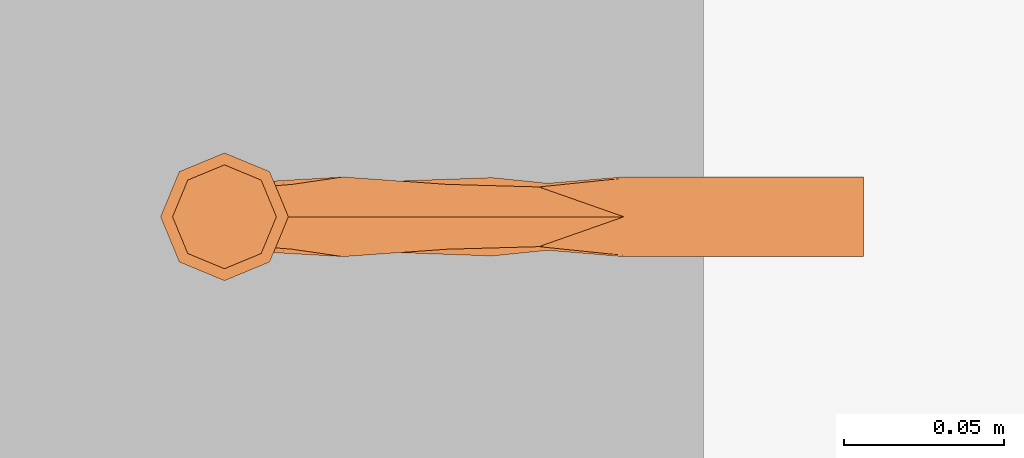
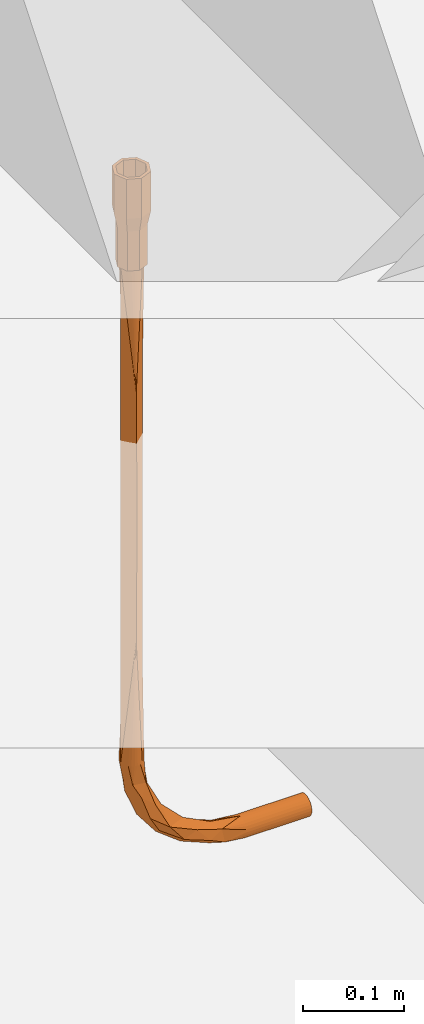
# One storey, part 26 of 26: 1 proxy.
"""IFC2X3 building model written with IfcOpenShell, lengths in millimetres."""

from ifc_helpers import new_model, entity, si_unit, converted_unit, derived_unit, direction, frame, origin, place, context, subcontext, project, spatial, faceted_brep, source, transform, mapped, type_object, type_shapes, element, save


model = new_model("IFC2X3")

# Units and contexts
model_context = context("Model", 3, precision=0.01, world=origin(), true_north=direction((6.12303176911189e-17, 1.0)))
body_context = subcontext(model_context, "Body", "Model", "MODEL_VIEW")
ifc_project = project(units=[si_unit("LENGTHUNIT", "METRE", prefix="MILLI"), si_unit("AREAUNIT", "SQUARE_METRE"), si_unit("VOLUMEUNIT", "CUBIC_METRE"), converted_unit("PLANEANGLEUNIT", "DEGREE", entity("IfcRatioMeasure", 0.0174532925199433), si_unit("PLANEANGLEUNIT", "RADIAN"), dimensions=[0, 0, 0, 0, 0, 0, 0]), si_unit("MASSUNIT", "GRAM", prefix="KILO"), derived_unit("MASSDENSITYUNIT", [(si_unit("MASSUNIT", "GRAM", prefix="KILO"), 1), (si_unit("LENGTHUNIT", "METRE"), -3)]), si_unit("TIMEUNIT", "SECOND"), si_unit("FREQUENCYUNIT", "HERTZ"), si_unit("THERMODYNAMICTEMPERATUREUNIT", "DEGREE_CELSIUS"), derived_unit("THERMALTRANSMITTANCEUNIT", [(si_unit("MASSUNIT", "GRAM", prefix="KILO"), 1), (si_unit("THERMODYNAMICTEMPERATUREUNIT", "KELVIN"), -1), (si_unit("TIMEUNIT", "SECOND"), -3)]), derived_unit("VOLUMETRICFLOWRATEUNIT", [(si_unit("LENGTHUNIT", "METRE"), 3), (si_unit("TIMEUNIT", "SECOND"), -1)]), si_unit("ELECTRICCURRENTUNIT", "AMPERE"), si_unit("ELECTRICVOLTAGEUNIT", "VOLT"), si_unit("POWERUNIT", "WATT"), si_unit("FORCEUNIT", "NEWTON", prefix="KILO"), si_unit("ILLUMINANCEUNIT", "LUX"), si_unit("LUMINOUSFLUXUNIT", "LUMEN"), si_unit("LUMINOUSINTENSITYUNIT", "CANDELA"), derived_unit("USERDEFINED", [(si_unit("MASSUNIT", "GRAM", prefix="KILO"), -1), (si_unit("LENGTHUNIT", "METRE"), -2), (si_unit("TIMEUNIT", "SECOND"), 3), (si_unit("LUMINOUSFLUXUNIT", "LUMEN"), 1)]), derived_unit("LINEARVELOCITYUNIT", [(si_unit("LENGTHUNIT", "METRE"), 1), (si_unit("TIMEUNIT", "SECOND"), -1)]), si_unit("PRESSUREUNIT", "PASCAL"), derived_unit("USERDEFINED", [(si_unit("LENGTHUNIT", "METRE"), -2), (si_unit("MASSUNIT", "GRAM", prefix="KILO"), 1), (si_unit("TIMEUNIT", "SECOND"), -2)])], contexts=[model_context])

# Site, building, storey
site_placement = place(None, origin())
site = spatial("IfcSite", under=ifc_project, at=site_placement, Name="Default", CompositionType="ELEMENT")
building_placement = place(site_placement, origin())
building = spatial("IfcBuilding", under=site, at=building_placement, Name="niet gebruiken", CompositionType="ELEMENT")
storey_placement = place(building_placement, origin())
storey = spatial("IfcBuildingStorey", under=building, at=storey_placement, Name="00 begane grond", CompositionType="ELEMENT", Elevation=0.0)

# Proxy
building_element_proxy_type = type_object("IfcBuildingElementProxyType", Name="Ø25/M30x1055 (gebogen)", PredefinedType="NOTDEFINED")
shared_shape = source(origin(), body_context, "Body", "Brep", [
    faceted_brep([(27.8452722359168, 32.4205897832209, 742.595272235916), (24.8305102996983, 33.6693450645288, 742.595272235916), (21.5952722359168, 34.0952722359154, 742.595272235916), (18.3600341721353, 33.6693450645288, 742.595272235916), (15.3452722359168, 32.4205897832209, 742.595272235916), (12.756437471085, 30.4341070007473, 742.595272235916), (10.7699546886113, 27.8452722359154, 742.595272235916), (9.52119940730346, 24.8305102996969, 742.595272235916), (9.0952722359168, 21.5952722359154, 742.595272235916), (9.52119940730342, 18.360034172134, 742.595272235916), (10.7699546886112, 15.3452722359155, 742.595272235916), (12.7564374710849, 12.7564374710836, 742.595272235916), (15.3452722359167, 10.76995468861, 742.595272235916), (18.3600341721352, 9.52119940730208, 742.595272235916), (21.5952722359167, 9.0952722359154, 742.595272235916), (24.8305102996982, 9.52119940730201, 742.595272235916), (27.8452722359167, 10.7699546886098, 742.595272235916), (30.4341070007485, 12.7564374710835, 742.595272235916), (32.4205897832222, 15.3452722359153, 742.595272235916), (33.6693450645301, 18.3600341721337, 742.595272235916), (34.0952722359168, 21.5952722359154, 742.595272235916), (33.6693450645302, 24.8305102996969, 742.595272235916), (32.4205897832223, 27.8452722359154, 742.595272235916), (30.4341070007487, 30.4341070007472, 742.595272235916), (221.595272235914, 27.8452722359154, 24.9205897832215), (221.595272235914, 24.8305102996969, 26.1693450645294), (221.595272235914, 21.5952722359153, 26.595272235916), (221.595272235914, 18.3600341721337, 26.1693450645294), (221.595272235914, 15.3452722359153, 24.9205897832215), (221.595272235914, 12.7564374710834, 22.9341070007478), (221.595272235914, 10.7699546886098, 20.345272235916), (221.595272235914, 9.52119940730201, 17.3305102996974), (221.595272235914, 9.0952722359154, 14.0952722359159), (221.595272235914, 9.52119940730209, 10.8600341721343), (221.595272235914, 10.76995468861, 7.84527223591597), (221.595272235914, 12.7564374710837, 5.25643747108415), (221.595272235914, 15.3452722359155, 3.26995468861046), (221.595272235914, 18.360034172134, 2.0211994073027), (221.595272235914, 21.5952722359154, 1.59527223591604), (221.595272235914, 24.8305102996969, 2.0211994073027), (221.595272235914, 27.8452722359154, 3.26995468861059), (221.595272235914, 30.4341070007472, 5.25643747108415), (221.595272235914, 32.4205897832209, 7.8452722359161), (221.595272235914, 33.6693450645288, 10.8600341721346), (221.595272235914, 34.0952722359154, 14.095272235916), (221.595272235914, 33.6693450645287, 17.3305102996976), (221.595272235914, 32.4205897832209, 20.3452722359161), (221.595272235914, 30.4341070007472, 22.9341070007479), (18.3600341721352, 9.52119940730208, 139.095272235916), (19.9636949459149, 9.20221145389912, 289.810582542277), (15.3452722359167, 10.76995468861, 139.095272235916), (33.6693450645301, 18.3600341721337, 139.095272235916), (34.0952722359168, 21.5952722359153, 139.095272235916), (34.0952722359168, 21.5952722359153, 262.545667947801), (34.0952722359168, 21.5952722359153, 619.144876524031), (9.52119940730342, 18.360034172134, 139.095272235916), (10.7699546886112, 15.3452722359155, 139.095272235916), (12.7564374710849, 12.7564374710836, 139.095272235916), (19.9636951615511, 9.20221142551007, 591.879953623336), (24.8305102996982, 9.52119940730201, 139.095272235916), (27.8452722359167, 10.7699546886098, 139.095272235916), (9.0952722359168, 21.5952722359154, 385.996059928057), (9.0952722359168, 21.5952722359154, 139.095272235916), (34.0952722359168, 21.5952722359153, 440.845272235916), (20.8391525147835, 9.11816187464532, 440.845266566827), (9.0952722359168, 21.5952722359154, 495.694484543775), (30.4341070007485, 12.7564374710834, 139.095272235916), (21.5952722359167, 9.0952722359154, 139.095272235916), (32.4205897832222, 15.3452722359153, 139.095272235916), (19.9636941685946, 33.9883329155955, 591.879951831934), (19.9636947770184, 33.988332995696, 289.810583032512), (18.3600341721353, 33.6693450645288, 139.095272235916), (15.3452722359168, 32.4205897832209, 139.095272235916), (24.8305102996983, 33.6693450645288, 139.095272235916), (27.8452722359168, 32.4205897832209, 139.095272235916), (30.4341070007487, 30.4341070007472, 139.095272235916), (32.4205897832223, 27.8452722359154, 139.095272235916), (33.6693450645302, 24.8305102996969, 139.095272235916), (21.5952722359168, 34.0952722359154, 139.095272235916), (20.8391522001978, 34.0723825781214, 440.845267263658), (10.7699546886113, 27.8452722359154, 139.095272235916), (9.52119940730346, 24.8305102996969, 139.095272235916), (12.756437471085, 30.4341070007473, 139.095272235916), (12.3491161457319, 21.5952722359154, 114.379873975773), (13.7804711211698, 21.5952722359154, 103.50765353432), (16.9722916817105, 11.0984902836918, 115.309187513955), (48.2477624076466, 12.4764047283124, 48.744443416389), (58.775862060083, 9.12119430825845, 51.2758622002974), (36.8554902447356, 10.3819759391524, 68.429625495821), (120.003528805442, 12.2510947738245, 25.4681731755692), (146.595272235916, 9.521199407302, 17.3305102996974), (146.595272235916, 10.7699546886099, 20.345272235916), (122.809187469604, 11.0984902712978, 9.472291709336), (105.283476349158, 9.32327970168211, 18.6040599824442), (26.104059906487, 9.3232797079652, 97.7834764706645), (32.9681731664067, 12.2510947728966, 112.503528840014), (27.5167792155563, 21.5952722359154, 70.3452722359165), (111.00765353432, 21.5952722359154, 6.28047112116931), (42.7911219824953, 11.4417887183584, 83.5962823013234), (75.9296253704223, 10.3819758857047, 29.3554904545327), (91.0962822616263, 11.4417887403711, 35.291122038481), (49.3680898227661, 21.5952722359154, 41.8680898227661), (39.601414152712, 21.5952722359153, 104.330860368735), (55.580860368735, 21.5952722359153, 72.9694313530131), (146.595272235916, 10.76995468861, 7.84527223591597), (146.595272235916, 9.52119940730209, 10.8600341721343), (146.595272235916, 9.0952722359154, 14.0952722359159), (146.595272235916, 15.3452722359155, 3.26995468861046), (121.879873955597, 21.5952722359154, 4.84911614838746), (146.595272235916, 18.360034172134, 2.02119940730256), (146.595272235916, 21.5952722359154, 1.59527223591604), (146.595272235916, 12.7564374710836, 5.25643747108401), (111.830860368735, 21.5952722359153, 32.1014141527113), (80.4694313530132, 21.5952722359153, 48.0808603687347), (146.595272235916, 18.3600341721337, 26.1693450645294), (146.595272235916, 21.5952722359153, 26.595272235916), (77.8452722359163, 21.5952722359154, 20.016779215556), (146.595272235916, 15.3452722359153, 24.9205897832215), (146.595272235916, 12.7564374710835, 22.9341070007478), (32.9681731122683, 30.9394497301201, 112.503528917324), (42.7911216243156, 31.7487560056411, 83.5962822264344), (120.003528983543, 30.9394497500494, 25.4681730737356), (16.9722915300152, 32.0920541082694, 115.309187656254), (26.1040594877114, 33.8672647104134, 97.7834768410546), (105.28347683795, 33.8672646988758, 18.6040594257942), (122.809187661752, 32.0920540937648, 9.4722915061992), (146.595272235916, 30.4341070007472, 22.9341070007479), (146.595272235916, 27.8452722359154, 24.9205897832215), (48.2477623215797, 30.7141395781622, 48.7444432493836), (36.8554894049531, 32.8085680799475, 68.4296251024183), (58.7758612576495, 34.0693501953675, 51.2758623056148), (75.9296245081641, 32.8085679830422, 29.3554895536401), (146.595272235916, 24.8305102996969, 26.1693450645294), (91.0962826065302, 31.7487560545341, 35.2911213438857), (146.595272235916, 24.830510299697, 2.0211994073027), (146.595272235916, 32.4205897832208, 20.3452722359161), (146.595272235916, 33.6693450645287, 17.3305102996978), (146.595272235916, 34.0952722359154, 14.0952722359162), (146.595272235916, 32.420589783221, 7.8452722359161), (146.595272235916, 30.4341070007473, 5.25643747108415), (146.595272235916, 33.6693450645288, 10.8600341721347), (146.595272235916, 27.8452722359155, 3.26995468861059)], [[[0, 1, 2, 3, 4, 5, 6, 7, 8, 9, 10, 11, 12, 13, 14, 15, 16, 17, 18, 19, 20, 21, 22, 23]], [[24, 25, 26, 27, 28, 29, 30, 31, 32, 33, 34, 35, 36, 37, 38, 39, 40, 41, 42, 43, 44, 45, 46, 47]], [[48, 49, 50]], [[51, 52, 53]], [[20, 19, 54]], [[55, 56, 49]], [[49, 57, 50]], [[18, 54, 19]], [[16, 58, 54]], [[59, 60, 49]], [[49, 61, 62]], [[14, 58, 15]], [[53, 63, 49]], [[61, 49, 64]], [[49, 62, 55]], [[65, 64, 58]], [[58, 64, 63]], [[9, 8, 58]], [[10, 9, 58]], [[53, 49, 60]], [[58, 11, 10]], [[60, 66, 53]], [[58, 63, 54]], [[49, 67, 59]], [[64, 49, 63]], [[68, 51, 53]], [[58, 13, 12]], [[17, 54, 18]], [[56, 57, 49]], [[49, 48, 67]], [[68, 53, 66]], [[12, 11, 58]], [[8, 65, 58]], [[61, 64, 65]], [[58, 14, 13]], [[15, 58, 16]], [[54, 17, 16]], [[69, 5, 4]], [[70, 71, 72]], [[73, 70, 74]], [[75, 53, 76]], [[52, 77, 53]], [[21, 20, 54]], [[5, 69, 6]], [[78, 71, 70]], [[74, 70, 53]], [[70, 73, 78]], [[53, 75, 74]], [[65, 69, 79]], [[62, 61, 70]], [[21, 54, 22]], [[8, 7, 69]], [[76, 53, 77]], [[22, 54, 23]], [[79, 69, 63]], [[2, 69, 3]], [[70, 63, 53]], [[79, 70, 61]], [[70, 80, 81]], [[70, 82, 80]], [[4, 3, 69]], [[69, 7, 6]], [[69, 2, 1]], [[81, 62, 70]], [[61, 65, 79]], [[23, 54, 0]], [[70, 79, 63]], [[72, 82, 70]], [[54, 69, 0]], [[69, 1, 0]], [[69, 65, 8]], [[63, 69, 54]], [[55, 62, 83]], [[83, 84, 85]], [[86, 87, 88]], [[56, 83, 57]], [[83, 56, 55]], [[89, 90, 91]], [[48, 50, 85]], [[92, 89, 93]], [[85, 50, 57]], [[85, 94, 95]], [[96, 94, 84]], [[57, 83, 85]], [[93, 97, 92]], [[88, 98, 94]], [[67, 48, 85]], [[94, 96, 88]], [[95, 60, 59]], [[59, 85, 95]], [[99, 100, 87]], [[96, 86, 88]], [[68, 95, 51]], [[99, 86, 101]], [[52, 51, 95]], [[60, 95, 66]], [[99, 87, 86]], [[85, 59, 67]], [[66, 95, 68]], [[95, 98, 102]], [[98, 103, 102]], [[88, 87, 98]], [[93, 100, 99]], [[104, 105, 92]], [[105, 106, 92]], [[92, 106, 90]], [[107, 108, 109]], [[110, 109, 108]], [[95, 102, 52]], [[108, 111, 92]], [[92, 111, 104]], [[100, 112, 113]], [[84, 94, 85]], [[111, 108, 107]], [[108, 92, 97]], [[114, 115, 89]], [[100, 93, 89]], [[98, 95, 94]], [[112, 89, 115]], [[86, 96, 101]], [[101, 116, 99]], [[93, 116, 97]], [[117, 114, 89]], [[118, 117, 89]], [[87, 103, 98]], [[113, 87, 100]], [[116, 93, 99]], [[89, 91, 118]], [[92, 90, 89]], [[100, 89, 112]], [[87, 113, 103]], [[77, 119, 76]], [[120, 102, 103]], [[119, 74, 75]], [[121, 112, 115]], [[75, 76, 119]], [[83, 122, 84]], [[102, 119, 52]], [[77, 52, 119]], [[84, 123, 96]], [[122, 119, 123]], [[80, 83, 81]], [[97, 124, 125]], [[119, 120, 123]], [[80, 82, 83]], [[126, 121, 127]], [[83, 62, 81]], [[122, 82, 72]], [[122, 78, 73]], [[128, 129, 130]], [[71, 78, 122]], [[122, 73, 119]], [[101, 131, 116]], [[82, 122, 83]], [[122, 72, 71]], [[124, 116, 131]], [[96, 129, 128]], [[123, 120, 129]], [[115, 132, 121]], [[96, 128, 101]], [[121, 132, 127]], [[133, 112, 121]], [[134, 110, 108]], [[130, 113, 133]], [[121, 126, 135]], [[119, 73, 74]], [[128, 131, 101]], [[123, 84, 122]], [[125, 136, 137]], [[121, 136, 125]], [[125, 138, 139]], [[121, 135, 136]], [[133, 113, 112]], [[137, 140, 125]], [[133, 131, 130]], [[125, 140, 138]], [[96, 123, 129]], [[124, 97, 116]], [[125, 124, 121]], [[133, 121, 124]], [[108, 139, 141]], [[131, 133, 124]], [[108, 97, 125]], [[131, 128, 130]], [[141, 134, 108]], [[120, 119, 102]], [[125, 139, 108]], [[129, 120, 130]], [[103, 130, 120]], [[113, 130, 103]], [[37, 109, 110, 38]], [[36, 107, 109, 37]], [[111, 35, 34, 104]], [[36, 35, 111, 107]], [[104, 34, 33, 105]], [[105, 33, 32, 106]], [[30, 91, 90, 31]], [[29, 118, 91, 30]], [[117, 28, 27, 114]], [[29, 28, 117, 118]], [[114, 27, 26, 115]], [[90, 106, 32, 31]], [[25, 132, 115, 26]], [[24, 127, 132, 25]], [[126, 47, 46, 135]], [[127, 24, 47, 126]], [[135, 46, 45, 136]], [[136, 45, 44, 137]], [[42, 41, 139, 138]], [[43, 42, 138, 140]], [[39, 38, 110, 134]], [[40, 39, 134, 141]], [[41, 40, 141, 139]], [[140, 137, 44, 43]]]),
    faceted_brep([(18.0597383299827, 40.1308061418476, 808.595272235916), (14.5242044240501, 38.6663400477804, 808.595272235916), (10.9886705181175, 37.2018739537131, 808.595272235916), (7.45313661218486, 35.7374078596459, 808.595272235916), (7.45313661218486, 35.7374078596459, 856.595272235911), (10.9886705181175, 37.2018739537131, 856.595272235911), (14.5242044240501, 38.6663400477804, 856.595272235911), (18.0597383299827, 40.1308061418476, 856.595272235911), (21.5952722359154, 41.5952722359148, 856.595272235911), (21.5952722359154, 41.5952722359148, 808.595272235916), (40.1308061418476, 25.1308061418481, 856.595272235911), (41.5952722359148, 21.5952722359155, 856.595272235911), (41.5952722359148, 21.5952722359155, 808.595272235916), (40.5365597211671, 24.1512303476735, 808.595272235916), (40.1308061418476, 25.1308061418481, 808.595272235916), (38.6663400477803, 28.6663400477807, 808.595272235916), (37.2018739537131, 32.2018739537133, 808.595272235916), (35.7374078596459, 35.737407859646, 808.595272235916), (35.7374078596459, 35.737407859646, 856.595272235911), (37.2018739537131, 32.2018739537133, 856.595272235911), (38.6663400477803, 28.6663400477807, 856.595272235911), (4.52420442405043, 28.6663400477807, 856.595272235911), (5.98867051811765, 32.2018739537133, 856.595272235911), (5.98867051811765, 32.2018739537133, 808.595272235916), (5.58291693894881, 31.2222981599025, 808.595272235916), (4.52420442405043, 28.6663400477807, 808.595272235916), (3.71269726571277, 26.707188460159, 808.595272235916), (3.05973832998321, 25.130806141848, 808.595272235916), (1.595272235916, 21.5952722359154, 808.595272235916), (1.595272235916, 21.5952722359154, 856.595272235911), (3.05973832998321, 25.130806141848, 856.595272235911), (28.6663400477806, 38.6663400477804, 856.595272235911), (32.2018739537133, 37.2018739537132, 856.595272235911), (32.2018739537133, 37.2018739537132, 808.595272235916), (28.6663400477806, 38.6663400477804, 808.595272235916), (25.130806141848, 40.1308061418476, 808.595272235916), (25.130806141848, 40.1308061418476, 856.595272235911), (39.4778472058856, 16.4833560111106, 856.595272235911), (37.6076275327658, 11.9682463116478, 856.595272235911), (35.737407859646, 7.45313661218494, 856.595272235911), (35.737407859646, 7.45313661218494, 808.595272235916), (37.2018739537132, 10.9886705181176, 808.595272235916), (38.6663400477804, 14.5242044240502, 808.595272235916), (40.1308061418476, 18.0597383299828, 808.595272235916), (14.5242044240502, 4.52420442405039, 856.595272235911), (10.9886705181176, 5.9886705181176, 856.595272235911), (7.45313661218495, 7.4531366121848, 856.595272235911), (7.45313661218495, 7.4531366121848, 808.595272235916), (10.9886705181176, 5.9886705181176, 808.595272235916), (14.5242044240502, 4.5242044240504, 808.595272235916), (18.0597383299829, 3.0597383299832, 808.595272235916), (21.5952722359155, 1.595272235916, 808.595272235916), (21.5952722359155, 1.595272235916, 856.595272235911), (18.0597383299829, 3.05973832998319, 856.595272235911), (25.1308061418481, 3.05973832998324, 808.595272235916), (28.6663400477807, 4.52420442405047, 808.595272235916), (32.2018739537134, 5.9886705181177, 808.595272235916), (32.2018739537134, 5.9886705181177, 856.595272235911), (28.6663400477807, 4.52420442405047, 856.595272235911), (25.1308061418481, 3.05973832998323, 856.595272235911), (5.98867051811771, 10.9886705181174, 856.595272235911), (4.52420442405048, 14.52420442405, 856.595272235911), (3.05973832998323, 18.0597383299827, 856.595272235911), (2.65398475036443, 19.0393141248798, 808.595272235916), (2.91084476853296, 18.4191991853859, 808.595272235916), (4.52420442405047, 14.52420442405, 808.595272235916), (5.98867051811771, 10.9886705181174, 808.595272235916), (10.1047870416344, 33.0857574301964, 790.595272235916), (8.91490834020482, 30.2131361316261, 790.595272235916), (8.79393232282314, 29.9210741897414, 790.595272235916), (7.72502963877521, 27.3405148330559, 790.595272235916), (7.48307760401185, 26.7563909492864, 790.595272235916), (6.53515093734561, 24.4678935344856, 790.595272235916), (6.41417491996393, 24.1758315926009, 790.595272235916), (5.34527223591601, 21.5952722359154, 790.595272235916), (18.7226509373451, 36.6553935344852, 790.595272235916), (15.8500296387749, 35.4655148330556, 790.595272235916), (12.9774083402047, 34.275636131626, 790.595272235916), (21.5952722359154, 37.8452722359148, 790.595272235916), (33.0857574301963, 33.0857574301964, 790.595272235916), (30.2131361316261, 34.275636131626, 790.595272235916), (27.3405148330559, 35.4655148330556, 790.595272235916), (24.4678935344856, 36.6553935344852, 790.595272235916), (37.8452722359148, 21.5952722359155, 790.595272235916), (36.7763694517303, 24.1758318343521, 790.595272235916), (36.6553935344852, 24.4678935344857, 790.595272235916), (35.4655148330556, 27.3405148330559, 790.595272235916), (34.275636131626, 30.2131361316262, 790.595272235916), (33.0857574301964, 10.1047870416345, 790.595272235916), (34.3966121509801, 13.2694702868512, 790.595272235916), (34.7437629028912, 14.107566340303, 790.595272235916), (35.7074668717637, 16.4341535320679, 790.595272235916), (36.294517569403, 17.8514192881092, 790.595272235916), (36.7763695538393, 19.0147128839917, 790.595272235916), (12.9774083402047, 8.91490834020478, 790.595272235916), (15.850029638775, 7.72502963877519, 790.595272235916), (18.7226509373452, 6.5351509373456, 790.595272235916), (21.5952722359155, 5.34527223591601, 790.595272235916), (10.1047870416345, 10.1047870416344, 790.595272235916), (24.4678935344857, 6.53515093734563, 790.595272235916), (27.3405148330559, 7.72502963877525, 790.595272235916), (30.2131361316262, 8.91490834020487, 790.595272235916), (6.53515093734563, 18.7226509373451, 790.595272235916), (7.72502963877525, 15.8500296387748, 790.595272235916), (8.91490834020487, 12.9774083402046, 790.595272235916), (18.7226509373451, 36.6553935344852, 742.595272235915), (15.8500296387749, 35.4655148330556, 742.595272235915), (12.9774083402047, 34.275636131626, 742.595272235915), (10.1047870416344, 33.0857574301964, 742.595272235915), (21.5952722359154, 37.8452722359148, 742.595272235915), (37.8452722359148, 21.5952722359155, 742.595272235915), (36.2945175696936, 25.33912518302, 742.595272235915), (35.4655148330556, 27.3405148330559, 742.595272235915), (34.275636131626, 30.2131361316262, 742.595272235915), (33.0857574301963, 33.0857574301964, 742.595272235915), (8.44678156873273, 29.0829781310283, 742.595272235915), (6.89602690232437, 25.3391251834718, 742.595272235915), (5.34527223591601, 21.5952722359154, 742.595272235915), (30.2131361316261, 34.275636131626, 742.595272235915), (27.3405148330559, 35.4655148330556, 742.595272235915), (24.4678935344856, 36.6553935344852, 742.595272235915), (33.0857574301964, 10.1047870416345, 742.595272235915), (34.275636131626, 12.9774083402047, 742.595272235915), (35.4655148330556, 15.850029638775, 742.595272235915), (36.294517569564, 17.8514192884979, 742.595272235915), (10.1047870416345, 10.1047870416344, 742.595272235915), (12.9774083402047, 8.91490834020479, 742.595272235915), (15.850029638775, 7.7250296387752, 742.595272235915), (18.7226509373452, 6.5351509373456, 742.595272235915), (21.5952722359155, 5.34527223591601, 742.595272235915), (24.4678935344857, 6.53515093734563, 742.595272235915), (27.3405148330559, 7.72502963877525, 742.595272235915), (30.2131361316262, 8.91490834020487, 742.595272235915), (6.89602690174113, 17.851419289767, 742.595272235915), (7.72502963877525, 15.8500296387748, 742.595272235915), (8.91490834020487, 12.9774083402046, 742.595272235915), (21.5952722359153, 21.5952722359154, 742.595272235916), (21.5952722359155, 21.5952722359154, 808.595272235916), (37.8452722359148, 21.5952722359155, 808.595272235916), (36.2945175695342, 25.3391251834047, 808.595272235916), (35.4655148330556, 27.3405148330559, 808.595272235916), (34.275636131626, 30.2131361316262, 808.595272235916), (33.0857574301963, 33.0857574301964, 808.595272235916), (30.2131361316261, 34.275636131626, 808.595272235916), (27.3405148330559, 35.4655148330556, 808.595272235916), (24.4678935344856, 36.6553935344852, 808.595272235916), (21.5952722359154, 37.8452722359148, 808.595272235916), (18.7226509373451, 36.6553935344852, 808.595272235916), (15.8500296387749, 35.4655148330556, 808.595272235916), (12.9774083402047, 34.275636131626, 808.595272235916), (10.1047870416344, 33.0857574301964, 808.595272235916), (8.44678156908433, 29.0829781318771, 808.595272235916), (6.89602690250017, 25.3391251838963, 808.595272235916), (5.34527223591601, 21.5952722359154, 808.595272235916), (6.89602690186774, 17.8514192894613, 808.595272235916), (36.2945175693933, 17.8514192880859, 808.595272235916), (35.4655148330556, 15.850029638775, 808.595272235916), (34.275636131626, 12.9774083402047, 808.595272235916), (33.0857574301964, 10.1047870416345, 808.595272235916), (30.2131361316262, 8.91490834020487, 808.595272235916), (27.3405148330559, 7.72502963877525, 808.595272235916), (24.4678935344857, 6.53515093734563, 808.595272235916), (21.5952722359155, 5.34527223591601, 808.595272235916), (7.72502963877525, 15.8500296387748, 808.595272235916), (8.91490834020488, 12.9774083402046, 808.595272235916), (10.1047870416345, 10.1047870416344, 808.595272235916), (12.9774083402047, 8.91490834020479, 808.595272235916), (15.850029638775, 7.72502963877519, 808.595272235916), (18.7226509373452, 6.5351509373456, 808.595272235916), (18.7226509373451, 36.6553935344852, 856.595272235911), (15.8500296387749, 35.4655148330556, 856.595272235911), (12.9774083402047, 34.275636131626, 856.595272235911), (10.1047870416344, 33.0857574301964, 856.595272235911), (21.5952722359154, 37.8452722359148, 856.595272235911), (36.6553935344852, 24.4678935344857, 856.595272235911), (35.4655148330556, 27.3405148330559, 856.595272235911), (34.275636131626, 30.2131361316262, 856.595272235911), (33.0857574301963, 33.0857574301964, 856.595272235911), (37.8452722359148, 21.5952722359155, 856.595272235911), (8.91490834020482, 30.2131361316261, 856.595272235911), (7.72502963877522, 27.3405148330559, 856.595272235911), (6.53515093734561, 24.4678935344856, 856.595272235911), (5.34527223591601, 21.5952722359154, 856.595272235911), (24.4678935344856, 36.6553935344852, 856.595272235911), (30.2131361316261, 34.275636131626, 856.595272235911), (27.3405148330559, 35.4655148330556, 856.595272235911), (33.0857574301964, 10.1047870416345, 856.595272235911), (34.7437629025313, 14.1075663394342, 856.595272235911), (36.294517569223, 17.8514192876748, 856.595272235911), (18.7226509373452, 6.5351509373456, 856.595272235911), (21.5952722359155, 5.34527223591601, 856.595272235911), (10.1047870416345, 10.1047870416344, 856.595272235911), (12.9774083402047, 8.91490834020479, 856.595272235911), (15.850029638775, 7.7250296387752, 856.595272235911), (24.4678935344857, 6.53515093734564, 856.595272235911), (27.340514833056, 7.72502963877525, 856.595272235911), (30.2131361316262, 8.91490834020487, 856.595272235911), (6.53515093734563, 18.7226509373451, 856.595272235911), (7.72502963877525, 15.8500296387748, 856.595272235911), (8.91490834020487, 12.9774083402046, 856.595272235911)], [[[0, 1, 2, 3, 4, 5, 6, 7, 8, 9]], [[10, 11, 12, 13, 14, 15, 16, 17, 18, 19, 20]], [[21, 22, 4, 3, 23, 24, 25, 26, 27, 28, 29, 30]], [[31, 32, 18, 17, 33, 34, 35, 9, 8, 36]], [[37, 38, 39, 40, 41, 42, 43, 12, 11]], [[44, 45, 46, 47, 48, 49, 50, 51, 52, 53]], [[52, 51, 54, 55, 56, 40, 39, 57, 58, 59]], [[47, 46, 60, 61, 62, 29, 28, 63, 64, 65, 66]], [[25, 24, 23, 3, 67, 68, 69, 70, 71, 72, 73, 74, 28, 27, 26]], [[75, 76, 77, 67, 3, 2, 1, 0, 9, 78]], [[34, 33, 17, 79, 80, 81, 82, 78, 9, 35]], [[15, 14, 13, 12, 83, 84, 85, 86, 87, 79, 17, 16]], [[42, 41, 40, 88, 89, 90, 91, 92, 93, 83, 12, 43]], [[94, 95, 96, 97, 51, 50, 49, 48, 47, 98]], [[54, 51, 97, 99, 100, 101, 88, 40, 56, 55]], [[65, 64, 63, 28, 74, 102, 103, 104, 98, 47, 66]], [[105, 106, 107, 108, 67, 77, 76, 75, 78, 109]], [[110, 111, 112, 113, 114, 79, 87, 86, 85, 84, 83]], [[108, 115, 116, 117, 74, 73, 72, 71, 70, 69, 68, 67]], [[81, 80, 79, 114, 118, 119, 120, 109, 78, 82]], [[110, 83, 93, 92, 91, 90, 89, 88, 121, 122, 123, 124]], [[95, 94, 98, 125, 126, 127, 128, 129, 97, 96]], [[100, 99, 97, 129, 130, 131, 132, 121, 88, 101]], [[125, 98, 104, 103, 102, 74, 117, 133, 134, 135]], [[136, 114, 113]], [[136, 113, 112]], [[136, 112, 111]], [[136, 111, 110]], [[136, 110, 124]], [[136, 118, 114]], [[136, 119, 118]], [[136, 120, 119]], [[136, 109, 120]], [[136, 105, 109]], [[136, 106, 105]], [[136, 107, 106]], [[136, 108, 107]], [[136, 115, 108]], [[136, 116, 115]], [[136, 117, 116]], [[136, 124, 123]], [[136, 123, 122]], [[136, 122, 121]], [[136, 121, 132]], [[136, 132, 131]], [[136, 131, 130]], [[136, 130, 129]], [[136, 129, 128]], [[136, 133, 117]], [[136, 134, 133]], [[136, 135, 134]], [[136, 125, 135]], [[136, 128, 127]], [[136, 127, 126]], [[136, 126, 125]], [[137, 138, 139]], [[137, 139, 140]], [[137, 140, 141]], [[137, 141, 142]], [[137, 142, 143]], [[137, 143, 144]], [[137, 144, 145]], [[137, 145, 146]], [[137, 146, 147]], [[137, 147, 148]], [[137, 148, 149]], [[137, 149, 150]], [[137, 150, 151]], [[137, 151, 152]], [[137, 152, 153]], [[137, 153, 154]], [[137, 155, 138]], [[137, 156, 155]], [[137, 157, 156]], [[137, 158, 157]], [[137, 159, 158]], [[137, 160, 159]], [[137, 161, 160]], [[137, 162, 161]], [[137, 154, 163]], [[137, 163, 164]], [[137, 164, 165]], [[137, 165, 166]], [[137, 166, 167]], [[137, 167, 168]], [[137, 168, 162]], [[169, 170, 171, 172, 150, 149, 148, 147, 146, 173]], [[174, 175, 176, 177, 142, 141, 140, 139, 138, 178]], [[172, 179, 180, 181, 182, 153, 152, 151, 150]], [[183, 173, 146, 145, 144, 143, 142, 177, 184, 185]], [[178, 138, 155, 156, 157, 158, 186, 187, 188]], [[189, 190, 162, 168, 167, 166, 165, 191, 192, 193]], [[159, 160, 161, 162, 190, 194, 195, 196, 186, 158]], [[164, 163, 154, 153, 182, 197, 198, 199, 191, 165]], [[178, 11, 10]], [[178, 10, 20]], [[178, 20, 19]], [[178, 19, 18]], [[18, 174, 178]], [[178, 37, 11]], [[178, 38, 37]], [[178, 39, 38]], [[39, 178, 188]], [[39, 188, 187]], [[39, 187, 186]], [[186, 57, 39]], [[186, 58, 57]], [[186, 59, 58]], [[186, 52, 59]], [[52, 186, 196]], [[52, 196, 195]], [[52, 195, 194]], [[52, 194, 190]], [[52, 190, 189]], [[52, 189, 193]], [[52, 193, 192]], [[52, 192, 191]], [[191, 53, 52]], [[191, 44, 53]], [[191, 45, 44]], [[191, 46, 45]], [[46, 191, 199]], [[46, 199, 198]], [[46, 198, 197]], [[46, 197, 182]], [[182, 60, 46]], [[182, 61, 60]], [[182, 62, 61]], [[182, 29, 62]], [[182, 30, 29]], [[182, 21, 30]], [[182, 22, 21]], [[182, 4, 22]], [[4, 182, 181]], [[4, 181, 180]], [[4, 180, 179]], [[4, 179, 172]], [[172, 5, 4]], [[172, 6, 5]], [[172, 7, 6]], [[172, 8, 7]], [[8, 172, 171]], [[8, 171, 170]], [[8, 170, 169]], [[8, 169, 173]], [[8, 173, 183]], [[8, 183, 185]], [[8, 185, 184]], [[8, 184, 177]], [[177, 18, 32]], [[18, 177, 176]], [[177, 32, 31]], [[177, 31, 36]], [[177, 36, 8]], [[18, 176, 175]], [[18, 175, 174]]]),
])
type_shapes(building_element_proxy_type, [shared_shape])
proxy_placement = place(storey_placement, frame((124378.404727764, 39718.4047277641, -1131.59527223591)))
element("IfcBuildingElementProxy", 1, at=proxy_placement, inside=storey, type_object=building_element_proxy_type, Name="GM_Stekanker_DEMU_4010 GV:Ø25/M30x1055 (gebogen)", ObjectType="Ø25/M30x1055 (gebogen)", context=body_context, shape_type="MappedRepresentation", body=[
    mapped(shared_shape, transform((0.0, 0.0, 0.0), scale=1.0)),
])

save(model, "model.ifc")
